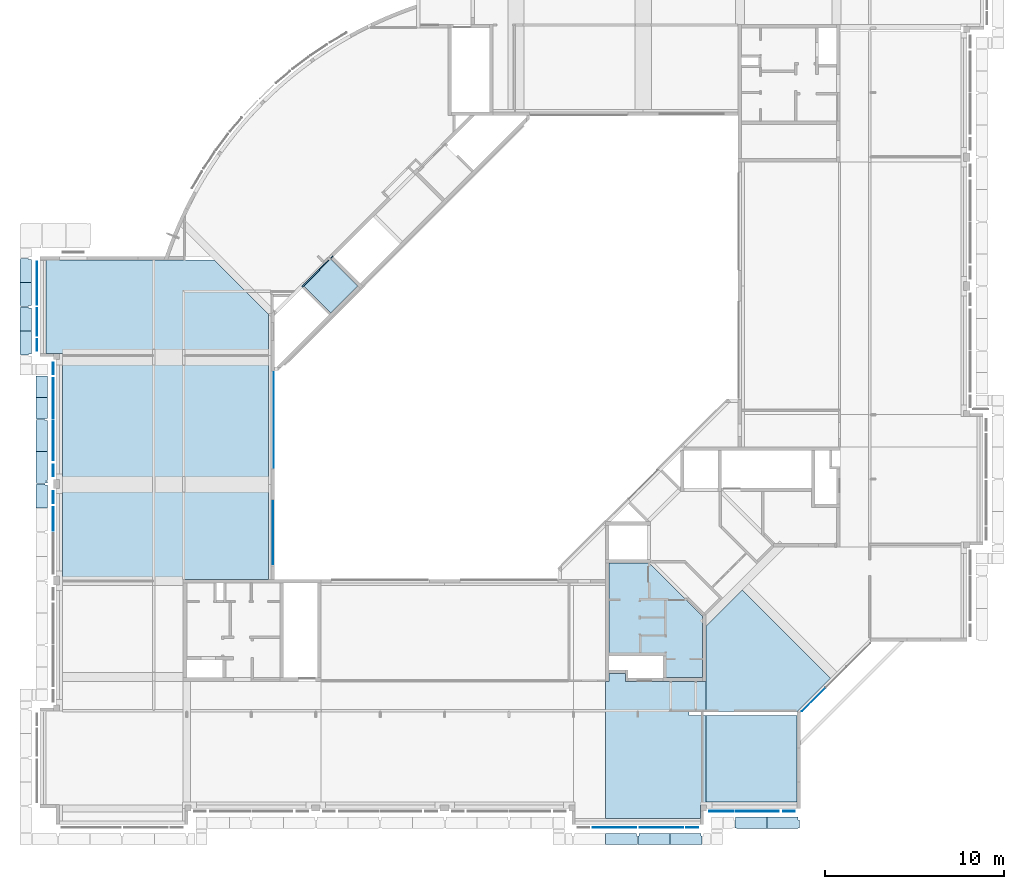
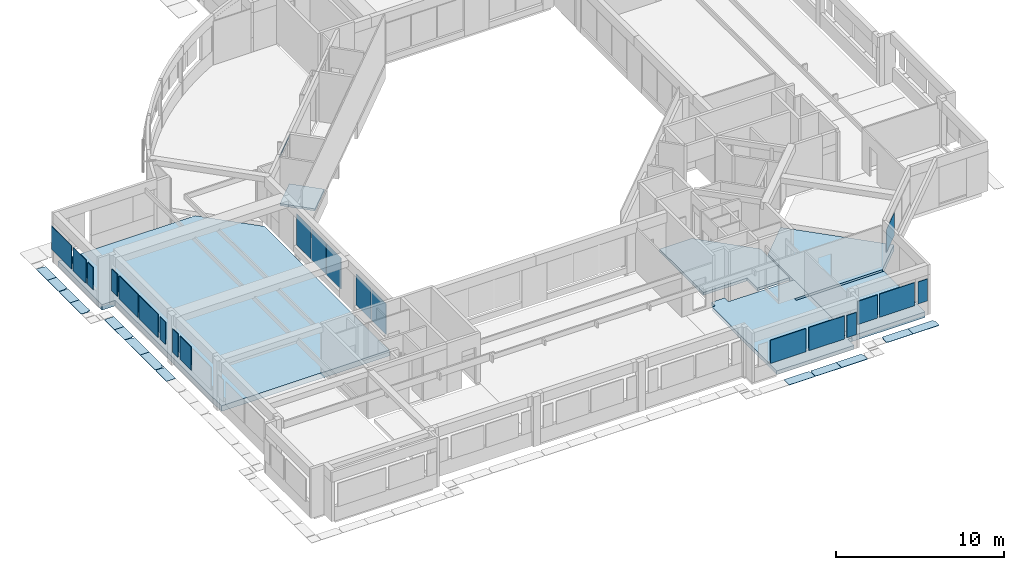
# One storey, part 5 of 26: 22 plates, 19 slabs, 1 element without a shape of its own.
"""IFC4X3_ADD2 building model written with IfcOpenShell, lengths in millimetres."""

from ifc_helpers import new_model, si_unit, direction, frame, frame_2d, origin_with_axes, origin_2d_with_axis, place, context, subcontext, project, spatial, polyline, rectangle, outline, extrude, source, transform, mapped, material, type_object, type_shapes, element, aggregate, save


model = new_model("IFC4X3_ADD2")

# Units and contexts
model_context = context("Model", 3, precision=1e-05, world=origin_with_axes(), true_north=direction((0.0, 1.0)))
body_context = subcontext(model_context, "Body", "Model", "MODEL_VIEW")
ifc_project = project(units=[si_unit("LENGTHUNIT", "METRE", prefix="MILLI"), si_unit("AREAUNIT", "SQUARE_METRE"), si_unit("VOLUMEUNIT", "CUBIC_METRE"), si_unit("PLANEANGLEUNIT", "RADIAN"), si_unit("TIMEUNIT", "SECOND"), si_unit("MASSUNIT", "GRAM")], contexts=[model_context])

# Site, building, storey
site_placement = place(None, origin_with_axes())
site = spatial("IfcSite", under=ifc_project, at=site_placement, Name="Site", CompositionType="ELEMENT")
building_placement = place(site_placement, origin_with_axes())
building = spatial("IfcBuilding", under=site, at=building_placement, Name="IFC Building Story")
storey_placement = place(building_placement, frame((0.0, 0.0, 7200.0), z_axis=(0.0, 0.0, 1.0), x_axis=(1.0, 0.0, 0.0)))
storey = spatial("IfcBuildingStorey", under=building, at=storey_placement, Name="020", Elevation=7200.0)

# Slabs
ifc_material_1 = material(Name="BB_Beton_Bestaand")
slab_type_1 = type_object("IfcSlabType", Name="BB_Beton_Bestaand 200", PredefinedType="FLOOR", material=ifc_material_1)
slab_1_placement = place(storey_placement, frame((-19899.99999999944, 13614.99999999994, -280.0), z_axis=(0.0, 0.0, 1.0), x_axis=(0.0, -1.0, 0.0)))
element("IfcSlab", 1, at=slab_1_placement, inside=storey, type_object=slab_type_1, Name="Floor:BB_XX_Vloer uit beton, 200 mm", ObjectType="Floor:BB_XX_Vloer uit beton, 200 mm", PredefinedType="FLOOR", context=body_context, shape_type="SweptSolid", body=[
    extrude(outline(polyline([(2668.879612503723, 347.5489589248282), (1458.879612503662, 347.5489589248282), (1458.879612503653, -2662.451041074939), (-3746.120387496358, -2662.451041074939), (-3746.120387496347, -445.293753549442), (-763.2776750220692, 2537.54895892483), (2668.879612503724, 2537.54895892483), (2668.879612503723, 347.5489589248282)])), frame((3746.120387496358, 2662.451041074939, 0.0), z_axis=(0.0, 0.0, 1.0), x_axis=(1.0, 0.0, 0.0)), (0.0, 0.0, 1.0), 200.0),
])
slab_type_2 = type_object("IfcSlabType", Name="Floor_BB_XX_Vloer welfsels_ 400 mm", PredefinedType="NOTDEFINED")
shared_shape_1 = source(origin_with_axes(), body_context, "Body", "SweptSolid", [
    extrude(rectangle(XDim=5084.999999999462, YDim=4855.00000000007, at=origin_2d_with_axis()), frame((-11957.5, 2672.50000000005, -600.0), z_axis=(0.0, 0.0, 1.0), x_axis=(1.0, 0.0, 0.0)), (0.0, 0.0, 1.0), 400.0),
    extrude(outline(polyline([(-3194.63239541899, 2532.370010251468), (-1160.711039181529, 4566.291366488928), (3769.24062085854, -363.6602935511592), (1890.36760458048, -2242.533309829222), (1890.36760458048, -2246.233886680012), (-3194.63239541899, -2246.233886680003), (-3194.63239541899, 2532.370010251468)])), frame((-11305.3676045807, 7546.233886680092, -600.0), z_axis=(0.0, 0.0, 1.0), x_axis=(1.0, 0.0, 0.0)), (0.0, 0.0, 1.0), 400.0),
])
type_shapes(slab_type_2, [shared_shape_1])
slab_2_placement = place(storey_placement, origin_with_axes())
element("IfcSlab", 2, at=slab_2_placement, inside=storey, type_object=slab_type_2, material=ifc_material_1, Name="Floor:BB_XX_Vloer welfsels, 400 mm", ObjectType="Floor:BB_XX_Vloer welfsels, 400 mm", PredefinedType="FLOOR", context=body_context, shape_type="MappedRepresentation", body=[
    mapped(shared_shape_1, transform((0.0, 0.0, 0.0))),
])
slab_type_3 = type_object("IfcSlabType", Name="BB_Beton_Bestaand 400", PredefinedType="FLOOR", material=ifc_material_1)
slab_3_placement = place(storey_placement, frame((-51354.99999999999, 30535.00000000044, -600.0), z_axis=(0.0, 0.0, 1.0), x_axis=(0.0, -1.0, 0.0)))
element("IfcSlab", 3, at=slab_3_placement, inside=storey, type_object=slab_type_3, Name="Floor:BB_XX_Vloer welfsels, 400 mm", ObjectType="Floor:BB_XX_Vloer welfsels, 400 mm", PredefinedType="FLOOR", context=body_context, shape_type="SweptSolid", body=[
    extrude(outline(polyline([(10820.30171112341, -4245.323370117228), (-1804.694222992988, -4245.323370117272), (-1804.694222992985, -5145.323370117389), (-7014.694222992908, -5145.323370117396), (-7014.694222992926, 4251.940220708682), (-4001.82653027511, 7264.67662988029), (10820.30171112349, 7264.67662988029), (10820.30171112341, -4245.323370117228)])), frame((7014.694222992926, 5145.323370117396, 0.0), z_axis=(0.0, 0.0, 1.0), x_axis=(1.0, 0.0, 0.0)), (0.0, 0.0, 1.0), 400.0),
])

# Plates
ifc_material_2 = material(Name="BB_Glas")
shared_shape_2 = source(origin_with_axes(), body_context, "Body", "SweptSolid", [
    extrude(rectangle(XDim=1602.000000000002, YDim=652.000000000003, at=frame_2d((0.0, 0.0), x_axis=(0.0, 1.0))), frame((0.0, 0.0, -44.0), z_axis=(0.0, 0.0, 1.0), x_axis=(1.0, 0.0, 0.0)), (0.0, 0.0, 1.0), 44.0),
])
for number, where, z_axis, x_axis in (
    (4, (-15264.0, -1187.50000000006, 1765.0), (0.0, -1.0, 0.0), (1.0, 0.0, 0.0)),
    (5, (-50987.4999999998, 24486.0, 1765.0), (-1.0, 0.0, 0.0), (0.0, -1.0, 0.0)),
    (6, (-50987.4999999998, 18774.0, 1765.0), (-1.0, 0.0, 0.0), (0.0, -1.0, 0.0)),
):
    element("IfcPlate", number, at=place(storey_placement, frame(where, z_axis=z_axis, x_axis=x_axis)), inside=storey, material=ifc_material_2, Name="BB_07.06_Buitenbeglazing, rechthoekig_GMO:07.06.72#01_Drievoudige beglazing, 44 mm, A/A*/A", ObjectType="BB_07.06_Buitenbeglazing, rechthoekig_GMO:07.06.72#01_Drievoudige beglazing, 44 mm, A/A*/A", PredefinedType="USERDEFINED", context=body_context, shape_type="MappedRepresentation", body=[
        mapped(shared_shape_2, transform((0.0, 0.0, 0.0))),
    ])
shared_shape_3 = source(origin_with_axes(), body_context, "Body", "SweptSolid", [
    extrude(rectangle(XDim=2222.0, YDim=1680.000000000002, at=origin_2d_with_axis()), frame((0.0, 0.0, -44.0), z_axis=(0.0, 0.0, 1.0), x_axis=(1.0, 0.0, 0.0)), (0.0, 0.0, 1.0), 44.0),
])
for number, where, z_axis, x_axis in (
    (7, (-50987.4999999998, 22811.0, 1765.0), (-1.0, 0.0, 0.0), (0.0, -1.0, 0.0)),
    (8, (-50987.4999999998, 20449.0, 1765.0), (-1.0, 0.0, 0.0), (0.0, -1.0, 0.0)),
):
    element("IfcPlate", number, at=place(storey_placement, frame(where, z_axis=z_axis, x_axis=x_axis)), inside=storey, material=ifc_material_2, Name="BB_07.06_Buitenbeglazing, rechthoekig_GMO:07.06.72#01_Drievoudige beglazing, 44 mm, A/A*/A", ObjectType="BB_07.06_Buitenbeglazing, rechthoekig_GMO:07.06.72#01_Drievoudige beglazing, 44 mm, A/A*/A", PredefinedType="USERDEFINED", context=body_context, shape_type="MappedRepresentation", body=[
        mapped(shared_shape_3, transform((0.0, 0.0, 0.0))),
    ])
shared_shape_4 = source(origin_with_axes(), body_context, "Body", "SweptSolid", [
    extrude(rectangle(XDim=2432.0, YDim=1680.000000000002, at=origin_2d_with_axis()), frame((0.0, 0.0, -44.0), z_axis=(0.0, 0.0, 1.0), x_axis=(1.0, 0.0, 0.0)), (0.0, 0.0, 1.0), 44.0),
])
for number, where, z_axis, x_axis in (
    (9, (-19616.0, -1187.50000000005, 1765.0), (0.0, -1.0, 0.0), (1.0, 0.0, 0.0)),
    (10, (-16984.0, -1187.50000000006, 1765.0), (0.0, -1.0, 0.0), (1.0, 0.0, 0.0)),
):
    element("IfcPlate", number, at=place(storey_placement, frame(where, z_axis=z_axis, x_axis=x_axis)), inside=storey, material=ifc_material_2, Name="BB_07.06_Buitenbeglazing, rechthoekig_GMO:07.06.72#01_Drievoudige beglazing, 44 mm, A/A*/A", ObjectType="BB_07.06_Buitenbeglazing, rechthoekig_GMO:07.06.72#01_Drievoudige beglazing, 44 mm, A/A*/A", PredefinedType="USERDEFINED", context=body_context, shape_type="MappedRepresentation", body=[
        mapped(shared_shape_4, transform((0.0, 0.0, 0.0))),
    ])
shared_shape_5 = source(origin_with_axes(), body_context, "Body", "SweptSolid", [
    extrude(rectangle(XDim=1602.000000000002, YDim=652.0000000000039, at=frame_2d((0.0, 0.0), x_axis=(0.0, 1.0))), frame((0.0, 0.0, -44.0), z_axis=(0.0, 0.0, 1.0), x_axis=(1.0, 0.0, 0.0)), (0.0, 0.0, 1.0), 44.0),
])
for number, where, z_axis, x_axis in (
    (11, (-9864.0, -287.499999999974, 1765.0), (0.0, -1.0, 0.0), (-1.0, 0.0, 0.0)),
    (12, (-51887.5000000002, 25794.0, 1765.0), (-1.0, 0.0, 0.0), (0.0, 1.0, 0.0)),
):
    element("IfcPlate", number, at=place(storey_placement, frame(where, z_axis=z_axis, x_axis=x_axis)), inside=storey, material=ifc_material_2, Name="BB_07.06_Buitenbeglazing, rechthoekig_GMO:07.06.72#01_Drievoudige beglazing, 44 mm, A/A*/A", ObjectType="BB_07.06_Buitenbeglazing, rechthoekig_GMO:07.06.72#01_Drievoudige beglazing, 44 mm, A/A*/A", PredefinedType="USERDEFINED", context=body_context, shape_type="MappedRepresentation", body=[
        mapped(shared_shape_5, transform((0.0, 0.0, 0.0))),
    ])
shared_shape_6 = source(origin_with_axes(), body_context, "Body", "SweptSolid", [
    extrude(rectangle(XDim=1680.000000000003, YDim=1532.000000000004, at=frame_2d((0.0, 0.0), x_axis=(0.0, 1.0))), frame((0.0, 0.0, -44.0), z_axis=(0.0, 0.0, 1.0), x_axis=(1.0, 0.0, 0.0)), (0.0, 0.0, 1.0), 44.0),
])
plate_1_placement = place(storey_placement, frame((-51887.5000000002, 27064.0, 1765.0), z_axis=(-1.0, 0.0, 0.0), x_axis=(0.0, 1.0, 0.0)))
element("IfcPlate", 13, at=plate_1_placement, inside=storey, material=ifc_material_2, Name="BB_07.06_Buitenbeglazing, rechthoekig_GMO:07.06.72#01_Drievoudige beglazing, 44 mm, A/A*/A", ObjectType="BB_07.06_Buitenbeglazing, rechthoekig_GMO:07.06.72#01_Drievoudige beglazing, 44 mm, A/A*/A", PredefinedType="USERDEFINED", context=body_context, shape_type="MappedRepresentation", body=[
    mapped(shared_shape_6, transform((0.0, 0.0, 0.0))),
])
shared_shape_7 = source(origin_with_axes(), body_context, "Body", "SweptSolid", [
    extrude(rectangle(XDim=2400.0, YDim=1680.000000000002, at=origin_2d_with_axis()), frame((0.0, 0.0, -44.0), z_axis=(0.0, 0.0, 1.0), x_axis=(1.0, 0.0, 0.0)), (0.0, 0.0, 1.0), 44.0),
])
plate_2_placement = place(storey_placement, frame((-51887.5000000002, 29230.0, 1765.0), z_axis=(-1.0, 0.0, 0.0), x_axis=(0.0, 1.0, 0.0)))
element("IfcPlate", 14, at=plate_2_placement, inside=storey, material=ifc_material_2, Name="BB_07.06_Buitenbeglazing, rechthoekig_GMO:07.06.72#01_Drievoudige beglazing, 44 mm, A/A*/A", ObjectType="BB_07.06_Buitenbeglazing, rechthoekig_GMO:07.06.72#01_Drievoudige beglazing, 44 mm, A/A*/A", PredefinedType="USERDEFINED", context=body_context, shape_type="MappedRepresentation", body=[
    mapped(shared_shape_7, transform((0.0, 0.0, 0.0))),
])
shared_shape_8 = source(origin_with_axes(), body_context, "Body", "SweptSolid", [
    extrude(rectangle(XDim=1680.000000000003, YDim=1322.000000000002, at=frame_2d((0.0, 0.0), x_axis=(0.0, 1.0))), frame((0.0, 0.0, -44.0), z_axis=(0.0, 0.0, 1.0), x_axis=(1.0, 0.0, 0.0)), (0.0, 0.0, 1.0), 44.0),
])
plate_3_placement = place(storey_placement, frame((-50987.4999999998, 16061.0, 1765.0), z_axis=(-1.0, 0.0, 0.0), x_axis=(0.0, 1.0, 0.0)))
element("IfcPlate", 15, at=plate_3_placement, inside=storey, material=ifc_material_2, Name="BB_07.06_Buitenbeglazing, rechthoekig_GMO:07.06.72#01_Drievoudige beglazing, 44 mm, A/A*/A", ObjectType="BB_07.06_Buitenbeglazing, rechthoekig_GMO:07.06.72#01_Drievoudige beglazing, 44 mm, A/A*/A", PredefinedType="USERDEFINED", context=body_context, shape_type="MappedRepresentation", body=[
    mapped(shared_shape_8, transform((0.0, 0.0, 0.0))),
])
shared_shape_9 = source(origin_with_axes(), body_context, "Body", "SweptSolid", [
    extrude(rectangle(XDim=1680.000000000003, YDim=652.000000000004, at=frame_2d((0.0, 0.0), x_axis=(0.0, 1.0))), frame((0.0, 0.0, -44.0), z_axis=(0.0, 0.0, 1.0), x_axis=(1.0, 0.0, 0.0)), (0.0, 0.0, 1.0), 44.0),
])
plate_4_placement = place(storey_placement, frame((-50987.4999999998, 17286.0, 1765.0), z_axis=(-1.0, 0.0, 0.0), x_axis=(0.0, 1.0, 0.0)))
element("IfcPlate", 16, at=plate_4_placement, inside=storey, material=ifc_material_2, Name="BB_07.06_Buitenbeglazing, rechthoekig_GMO:07.06.72#01_Drievoudige beglazing, 44 mm, A/A*/A", ObjectType="BB_07.06_Buitenbeglazing, rechthoekig_GMO:07.06.72#01_Drievoudige beglazing, 44 mm, A/A*/A", PredefinedType="USERDEFINED", context=body_context, shape_type="MappedRepresentation", body=[
    mapped(shared_shape_9, transform((0.0, 0.0, 0.0))),
])
shared_shape_10 = source(origin_with_axes(), body_context, "Body", "SweptSolid", [
    extrude(rectangle(XDim=2256.0, YDim=1736.000000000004, at=frame_2d((0.0, 0.0), x_axis=(0.0, 1.0))), frame((0.0, 0.0, -17.0), z_axis=(0.0, 0.0, 1.0), x_axis=(1.0, 0.0, 0.0)), (0.0, 0.0, 1.0), 17.0),
])
for number, where, z_axis, x_axis in (
    (17, (-38633.5000000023, 21600.0, 1475.0), (1.0, 0.0, 0.0), (0.0, 1.0, 0.0)),
    (18, (-38633.5000000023, 19800.0, 1475.0), (1.0, 0.0, 0.0), (0.0, 1.0, 0.0)),
    (19, (-38678.4375000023, 16200.0, 1475.0), (1.0, 0.0, 0.0), (0.0, 1.0, 0.0)),
    (20, (-38678.4375000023, 14400.0, 1475.0), (1.0, 0.0, 0.0), (0.0, 1.0, 0.0)),
    (21, (-38633.5000000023, 23400.0, 1475.0), (1.0, 0.0, 0.0), (0.0, 1.0, 0.0)),
):
    element("IfcPlate", number, at=place(storey_placement, frame(where, z_axis=z_axis, x_axis=x_axis)), inside=storey, material=ifc_material_2, Name="BB_10.10_Binnenbeglazing, rechthoekig_GMO:10.10.41#02_Enkelvoudige beglazing, 2B2, EI30, 40dB", ObjectType="BB_10.10_Binnenbeglazing, rechthoekig_GMO:10.10.41#02_Enkelvoudige beglazing, 2B2, EI30, 40dB", PredefinedType="USERDEFINED", context=body_context, shape_type="MappedRepresentation", body=[
        mapped(shared_shape_10, transform((0.0, 0.0, 0.0))),
    ])
shared_shape_11 = source(origin_with_axes(), body_context, "Body", "SweptSolid", [
    extrude(rectangle(XDim=2402.0, YDim=1680.000000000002, at=origin_2d_with_axis()), frame((0.0, 0.0, -44.0), z_axis=(0.0, 0.0, 1.0), x_axis=(1.0, 0.0, 0.0)), (0.0, 0.0, 1.0), 44.0),
])
plate_5_placement = place(storey_placement, frame((-11629.0, -287.499999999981, 1765.0), z_axis=(0.0, -1.0, 0.0), x_axis=(-1.0, 0.0, 0.0)))
element("IfcPlate", 22, at=plate_5_placement, inside=storey, material=ifc_material_2, Name="BB_07.06_Buitenbeglazing, rechthoekig_GMO:07.06.72#01_Drievoudige beglazing, 44 mm, A/A*/A", ObjectType="BB_07.06_Buitenbeglazing, rechthoekig_GMO:07.06.72#01_Drievoudige beglazing, 44 mm, A/A*/A", PredefinedType="USERDEFINED", context=body_context, shape_type="MappedRepresentation", body=[
    mapped(shared_shape_11, transform((0.0, 0.0, 0.0))),
])
shared_shape_12 = source(origin_with_axes(), body_context, "Body", "SweptSolid", [
    extrude(rectangle(XDim=1680.000000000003, YDim=1350.000000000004, at=frame_2d((0.0, 0.0), x_axis=(0.0, 1.0))), frame((0.0, 0.0, -44.0), z_axis=(0.0, 0.0, 1.0), x_axis=(1.0, 0.0, 0.0)), (0.0, 0.0, 1.0), 44.0),
])
plate_6_placement = place(storey_placement, frame((-13645.0, -287.499999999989, 1765.0), z_axis=(0.0, -1.0, 0.0), x_axis=(-1.0, 0.0, 0.0)))
element("IfcPlate", 23, at=plate_6_placement, inside=storey, material=ifc_material_2, Name="BB_07.06_Buitenbeglazing, rechthoekig_GMO:07.06.72#01_Drievoudige beglazing, 44 mm, A/A*/A", ObjectType="BB_07.06_Buitenbeglazing, rechthoekig_GMO:07.06.72#01_Drievoudige beglazing, 44 mm, A/A*/A", PredefinedType="USERDEFINED", context=body_context, shape_type="MappedRepresentation", body=[
    mapped(shared_shape_12, transform((0.0, 0.0, 0.0))),
])
shared_shape_13 = source(origin_with_axes(), body_context, "Body", "SweptSolid", [
    extrude(rectangle(XDim=1836.000000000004, YDim=1669.000000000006, at=origin_2d_with_axis()), frame((0.0, 0.0, -17.0), z_axis=(0.0, 0.0, 1.0), x_axis=(1.0, 0.0, 0.0)), (0.0, 0.0, 1.0), 17.0),
])
plate_7_placement = place(storey_placement, frame((-8477.28610948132, 5968.47124983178, 1762.50000000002), z_axis=(0.7071067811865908, -0.7071067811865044, 0.0), x_axis=(0.7071067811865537, 0.7071067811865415, 0.0)))
element("IfcPlate", 24, at=plate_7_placement, inside=storey, material=ifc_material_2, Name="BB_10.10_Binnenbeglazing, rechthoekig_GMO:10.10.42#01_Enkelvoudige beglazing, 2B2, EI60", ObjectType="BB_10.10_Binnenbeglazing, rechthoekig_GMO:10.10.42#01_Enkelvoudige beglazing, 2B2, EI60", PredefinedType="USERDEFINED", context=body_context, shape_type="MappedRepresentation", body=[
    mapped(shared_shape_13, transform((0.0, 0.0, 0.0))),
])

# Slabs
slab_type_4 = type_object("IfcSlabType", Name="BB_Beton_Bestaand 260", PredefinedType="FLOOR", material=ifc_material_1)
slab_4_placement = place(storey_placement, frame((-20099.99999999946, 7449.999999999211, -460.0), z_axis=(0.0, 0.0, 1.0), x_axis=(0.0, -1.0, 0.0)))
element("IfcSlab", 25, at=slab_4_placement, inside=storey, type_object=slab_type_4, Name="Floor:BB_XX_Vloer welfsels, 260 mm", ObjectType="Floor:BB_XX_Vloer welfsels, 260 mm", PredefinedType="FLOOR", context=body_context, shape_type="SweptSolid", body=[
    extrude(outline(polyline([(4374.999999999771, 2097.880582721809), (5124.999999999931, 2097.880582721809), (5124.999999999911, -3207.119417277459), (-2530.000000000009, -3207.119417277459), (-2530.000000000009, -3007.119417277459), (-2979.99999999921, -3007.119417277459), (-2979.999999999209, -2107.283496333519), (-2529.999999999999, -2107.283496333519), (-2529.999999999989, 2392.880582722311), (-830.0000000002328, 2392.8805827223), (-830.0000000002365, 1437.88058272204), (-630.0000000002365, 1437.88058272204), (-630.0000000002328, 2392.8805827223), (4374.999999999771, 2392.88058272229), (4374.999999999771, 2097.880582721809)])), frame((2979.99999999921, 3207.119417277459, 0.0), z_axis=(0.0, 0.0, 1.0), x_axis=(1.0, 0.0, 0.0)), (0.0, 0.0, 1.0), 260.0),
])
slab_type_5 = type_object("IfcSlabType", Name="BB_Beton_Bestaand 150", PredefinedType="FLOOR", material=ifc_material_1)
slab_5_placement = place(storey_placement, frame((-36975.84103193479, 29105.74255732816, -350.0), z_axis=(0.0, 0.0, 1.0), x_axis=(0.7071067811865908, -0.7071067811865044, 0.0)))
element("IfcSlab", 26, at=slab_5_placement, inside=storey, type_object=slab_type_5, Name="Floor:BB_XX_Vloer uit beton, 150 mm", ObjectType="Floor:BB_XX_Vloer uit beton, 150 mm", PredefinedType="FLOOR", context=body_context, shape_type="SweptSolid", body=[
    extrude(rectangle(XDim=2158.526617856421, YDim=2130.000000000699, at=frame_2d((0.0, 0.0), x_axis=(-1.0, 0.0))), frame((1079.263308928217, 1065.000000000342, 0.0), z_axis=(0.0, 0.0, 1.0), x_axis=(1.0, 0.0, 0.0)), (0.0, 0.0, 1.0), 150.000000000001),
])

# Assembly, plate
assembly_placement = place(storey_placement, frame((0.0, 0.0, -7200.0), z_axis=(0.0, 0.0, 1.0), x_axis=(1.0, 0.0, 0.0)))
assembly = element("IfcElementAssembly", 27, at=assembly_placement, inside=storey, Name="Structural Connections Assembly:IPE360 + plaat", ObjectType="Structural Connections Assembly:IPE360 + plaat", AssemblyPlace="NOTDEFINED", PredefinedType="USERDEFINED")
ifc_material_3 = material(Name="BB_Schrijnwerk_Aluminium")
shared_shape_14 = source(origin_with_axes(), body_context, "Body", "SweptSolid", [
    extrude(rectangle(XDim=2419.99999999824, YDim=65.00000000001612, at=frame_2d((0.0, 0.0), x_axis=(0.7071067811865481, 0.7071067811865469))), frame((878.580175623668, 878.5801756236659, 0.0), z_axis=(0.0, 0.0, 1.0), x_axis=(1.0, 0.0, 0.0)), (0.0, 0.0, 1.0), 9.99999999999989),
])
plate_8_placement = place(assembly_placement, frame((-37071.3004473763, 29027.9608113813, 10439.50000000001), z_axis=(0.0, 0.0, 1.0), x_axis=(1.0, 0.0, 0.0)))
plate_8 = element("IfcPlate", 28, at=plate_8_placement, material=ifc_material_3, Name="plate5:plate", ObjectType="plate5:plate", PredefinedType="USERDEFINED", context=body_context, shape_type="MappedRepresentation", body=[
    mapped(shared_shape_14, transform((0.0, 0.0, 0.0))),
])
aggregate(assembly, [plate_8])

# Slabs
ifc_material_4 = material(Name="Steel, Galvanized - looprooster")
slab_type_6 = type_object("IfcSlabType", Name="Steel, Galvanized - looprooster 30", PredefinedType="FLOOR", material=ifc_material_4)
slab_6_placement = place(storey_placement, frame((-52819.998957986, 29279.99796376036, -350.0), z_axis=(0.0, 0.0, 1.0), x_axis=(0.0, -1.0, 0.0)))
element("IfcSlab", 29, at=slab_6_placement, inside=storey, type_object=slab_type_6, Name="Floor:GVH - Looprooster 30 mm", ObjectType="Floor:GVH - Looprooster 30 mm", PredefinedType="FLOOR", context=body_context, shape_type="SweptSolid", body=[
    extrude(outline(polyline([(368.499500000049, -267.5011650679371), (281.4994999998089, -267.5011650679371), (281.4994999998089, -282.4999850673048), (-966.4984999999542, -282.4999850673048), (-966.4984999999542, 347.5005750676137), (316.4995000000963, 347.5005750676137), (316.4995000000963, 202.5005750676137), (368.499500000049, 202.5005750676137), (368.499500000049, -267.5011650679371)])), frame((966.4984999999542, 282.4999850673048, 0.0), z_axis=(0.0, 0.0, 1.0), x_axis=(1.0, 0.0, 0.0)), (0.0, 0.0, 1.0), 29.99999999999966),
])
slab_7_placement = place(storey_placement, frame((-51919.99839785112, 22852.4979637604, -350.0), z_axis=(0.0, 0.0, 1.0), x_axis=(0.0, -1.0, 0.0)))
element("IfcSlab", 30, at=slab_7_placement, inside=storey, type_object=slab_type_6, Name="Floor:GVH - Looprooster 30 mm", ObjectType="Floor:GVH - Looprooster 30 mm", PredefinedType="FLOOR", context=body_context, shape_type="SweptSolid", body=[
    extrude(outline(polyline([(327.8744499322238, -267.5017166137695), (275.8746502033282, -267.5017166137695), (275.8746502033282, -282.4994277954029), (-879.6235500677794, -282.4994277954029), (-879.6235500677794, 347.5005722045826), (275.8744499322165, 347.5005722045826), (275.8744499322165, 202.5005722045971), (327.8744499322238, 202.5005722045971), (327.8744499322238, -267.5017166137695)])), frame((879.6235500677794, 282.4994277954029, 0.0), z_axis=(0.0, 0.0, 1.0), x_axis=(1.0, 0.0, 0.0)), (0.0, 0.0, 1.0), 29.99999999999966),
])
slab_8_placement = place(storey_placement, frame((-51919.99839785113, 19829.49796376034, -350.0), z_axis=(0.0, 0.0, 1.0), x_axis=(0.0, -1.0, 0.0)))
element("IfcSlab", 31, at=slab_8_placement, inside=storey, type_object=slab_type_6, Name="Floor:GVH - Looprooster 30 mm", ObjectType="Floor:GVH - Looprooster 30 mm", PredefinedType="FLOOR", context=body_context, shape_type="SweptSolid", body=[
    extrude(outline(polyline([(360.2496332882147, -368.3342997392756), (308.2498335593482, -368.3342997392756), (308.2498335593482, -383.3320109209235), (-1424.248366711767, -383.3320109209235), (-1424.248366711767, 246.667989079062), (175.2496332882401, 246.667989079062), (175.2496332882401, 156.6647847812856), (255.2496332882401, 156.6647847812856), (255.2496332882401, 246.667989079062), (325.2496332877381, 246.667989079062), (325.2496332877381, 101.6655477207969), (360.2496332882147, 101.6655477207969), (360.2496332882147, -368.3342997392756)])), frame((1424.248366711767, 383.3320109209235, 0.0), z_axis=(0.0, 0.0, 1.0), x_axis=(1.0, 0.0, 0.0)), (0.0, 0.0, 1.0), 29.9999999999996),
])
slab_9_placement = place(storey_placement, frame((-52819.9983978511, 30614.9999637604, -350.0), z_axis=(0.0, 0.0, 1.0), x_axis=(0.0, -1.0, 0.0)))
element("IfcSlab", 32, at=slab_9_placement, inside=storey, type_object=slab_type_6, Name="Floor:GVH - Looprooster 30 mm", ObjectType="Floor:GVH - Looprooster 30 mm", PredefinedType="FLOOR", context=body_context, shape_type="SweptSolid", body=[
    extrude(outline(polyline([(-307.6244513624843, 347.5005722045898), (974.8735505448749, 347.5005722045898), (974.8735505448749, -282.4994277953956), (-307.6246478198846, -282.4994277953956), (-307.6246478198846, -267.501716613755), (-359.6244513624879, -267.501716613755), (-359.6244513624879, 202.5005722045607), (-307.6244513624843, 202.5005722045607), (-307.6244513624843, 347.5005722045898)])), frame((359.6244513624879, 282.4994277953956, 0.0), z_axis=(0.0, 0.0, 1.0), x_axis=(1.0, 0.0, 0.0)), (0.0, 0.0, 1.0), 29.99999999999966),
])
slab_10_placement = place(storey_placement, frame((-52819.99895798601, 27914.99996376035, -350.0), z_axis=(0.0, 0.0, 1.0), x_axis=(0.0, -1.0, 0.0)))
element("IfcSlab", 33, at=slab_10_placement, inside=storey, type_object=slab_type_6, Name="Floor:GVH - Looprooster 30 mm", ObjectType="Floor:GVH - Looprooster 30 mm", PredefinedType="FLOOR", context=body_context, shape_type="SweptSolid", body=[
    extrude(outline(polyline([(-316.4995000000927, 347.5005750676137), (966.498499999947, 347.5005750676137), (966.498499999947, -282.4999850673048), (-281.4994999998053, -282.4999850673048), (-281.4994999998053, -267.5011650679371), (-368.4995000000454, -267.5011650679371), (-368.4995000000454, 202.5005750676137), (-316.4995000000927, 202.5005750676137), (-316.4995000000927, 347.5005750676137)])), frame((368.4995000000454, 282.4999850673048, 0.0), z_axis=(0.0, 0.0, 1.0), x_axis=(1.0, 0.0, 0.0)), (0.0, 0.0, 1.0), 29.99999999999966),
])
slab_11_placement = place(storey_placement, frame((-52819.99839785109, 26579.4979637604, -350.0), z_axis=(0.0, 0.0, 1.0), x_axis=(0.0, -1.0, 0.0)))
element("IfcSlab", 34, at=slab_11_placement, inside=storey, type_object=slab_type_6, Name="Floor:GVH - Looprooster 30 mm", ObjectType="Floor:GVH - Looprooster 30 mm", PredefinedType="FLOOR", context=body_context, shape_type="SweptSolid", body=[
    extrude(outline(polyline([(359.6244499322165, -267.5011650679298), (307.6246502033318, -267.5011650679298), (307.6246502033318, -282.4999850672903), (-974.8735500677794, -282.4999850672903), (-974.8735500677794, 347.5005750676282), (307.6244499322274, 347.5005750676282), (307.6244499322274, 202.500575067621), (359.6244499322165, 202.500575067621), (359.6244499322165, -267.5011650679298)])), frame((974.8735500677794, 282.4999850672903, 0.0), z_axis=(0.0, 0.0, 1.0), x_axis=(1.0, 0.0, 0.0)), (0.0, 0.0, 1.0), 29.99999999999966),
])
slab_12_placement = place(storey_placement, frame((-51919.9983978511, 21614.99996376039, -350.0), z_axis=(0.0, 0.0, 1.0), x_axis=(0.0, -1.0, 0.0)))
element("IfcSlab", 35, at=slab_12_placement, inside=storey, type_object=slab_type_6, Name="Floor:GVH - Looprooster 30 mm", ObjectType="Floor:GVH - Looprooster 30 mm", PredefinedType="FLOOR", context=body_context, shape_type="SweptSolid", body=[
    extrude(outline(polyline([(-420.2504508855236, 347.5005722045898), (1312.751549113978, 347.5005722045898), (1312.751549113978, -282.4994277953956), (-420.2506473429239, -282.4994277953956), (-420.2506473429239, -267.501716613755), (-472.2504508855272, -267.501716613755), (-472.2504508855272, 202.5005722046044), (-420.2504508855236, 202.5005722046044), (-420.2504508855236, 347.5005722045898)])), frame((472.2504508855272, 282.4994277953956, 0.0), z_axis=(0.0, 0.0, 1.0), x_axis=(1.0, 0.0, 0.0)), (0.0, 0.0, 1.0), 29.99999999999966),
])
slab_13_placement = place(storey_placement, frame((-51919.99839785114, 18014.99596376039, -350.0), z_axis=(0.0, 0.0, 1.0), x_axis=(0.0, -1.0, 0.0)))
element("IfcSlab", 36, at=slab_13_placement, inside=storey, type_object=slab_type_6, Name="Floor:GVH - Looprooster 30 mm", ObjectType="Floor:GVH - Looprooster 30 mm", PredefinedType="FLOOR", context=body_context, shape_type="SweptSolid", body=[
    extrude(outline(polyline([(-320.501450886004, 347.5010453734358), (979.5005491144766, 347.5010453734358), (979.5005491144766, -282.4989546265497), (-303.5016473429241, -282.4989546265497), (-303.5016473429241, -267.5006947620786), (-355.4974508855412, -267.5006947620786), (-355.4974508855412, 202.498604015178), (-320.501450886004, 202.498604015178), (-320.501450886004, 347.5010453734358)])), frame((355.4974508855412, 282.4989546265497, 0.0), z_axis=(0.0, 0.0, 1.0), x_axis=(1.0, 0.0, 0.0)), (0.0, 0.0, 1.0), 29.99999999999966),
])
slab_14_placement = place(storey_placement, frame((-51919.9983978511, 24061.50125884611, -350.0), z_axis=(0.0, 0.0, 1.0), x_axis=(0.0, -1.0, 0.0)))
element("IfcSlab", 37, at=slab_14_placement, inside=storey, type_object=slab_type_6, Name="Floor:GVH - Looprooster 30 mm", ObjectType="Floor:GVH - Looprooster 30 mm", PredefinedType="FLOOR", context=body_context, shape_type="SweptSolid", body=[
    extrude(rectangle(XDim=1207.998000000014, YDim=629.9999999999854, at=frame_2d((0.0, 0.0), x_axis=(-1.0, 0.0))), frame((603.9990000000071, 314.9999999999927, 0.0), z_axis=(0.0, 0.0, 1.0), x_axis=(1.0, 0.0, 0.0)), (0.0, 0.0, 1.0), 29.99999999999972),
])
slab_15_placement = place(storey_placement, frame((-18285.99996376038, -2119.998382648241, -350.0), z_axis=(0.0, 0.0, 1.0), x_axis=(1.0, 0.0, 0.0)))
element("IfcSlab", 38, at=slab_15_placement, inside=storey, type_object=slab_type_6, Name="Floor:GVH - Looprooster 30 mm", ObjectType="Floor:GVH - Looprooster 30 mm", PredefinedType="FLOOR", context=body_context, shape_type="SweptSolid", body=[
    extrude(outline(polyline([(-394.249464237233, -282.4992180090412), (-394.249464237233, -267.4995613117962), (-481.2494642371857, -267.4995613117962), (-481.2494642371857, 202.4983406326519), (-429.2494642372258, 202.4983406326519), (-429.2494642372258, 347.5004386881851), (1304.748392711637, 347.5004386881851), (1304.748392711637, -282.4992180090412), (-394.249464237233, -282.4992180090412)])), frame((481.2494642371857, 282.4992180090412, 0.0), z_axis=(0.0, 0.0, 1.0), x_axis=(1.0, 0.0, 0.0)), (0.0, 0.0, 1.0), 29.99999999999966),
])
slab_16_placement = place(storey_placement, frame((-20099.99796376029, -2119.998390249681, -350.0), z_axis=(0.0, 0.0, 1.0), x_axis=(1.0, 0.0, 0.0)))
element("IfcSlab", 39, at=slab_16_placement, inside=storey, type_object=slab_type_6, Name="Floor:GVH - Looprooster 30 mm", ObjectType="Floor:GVH - Looprooster 30 mm", PredefinedType="FLOOR", context=body_context, shape_type="SweptSolid", body=[
    extrude(outline(polyline([(393.9995000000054, -267.499561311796), (393.9995000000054, -282.499218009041), (-1303.998499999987, -282.499218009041), (-1303.998499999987, 347.500438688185), (428.9994999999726, 347.500438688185), (428.9994999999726, 202.498340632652), (480.9995000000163, 202.498340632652), (480.9995000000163, -267.499561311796), (393.9995000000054, -267.499561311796)])), frame((1303.998499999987, 282.499218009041, 0.0), z_axis=(0.0, 0.0, 1.0), x_axis=(1.0, 0.0, 0.0)), (0.0, 0.0, 1.0), 29.99999999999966),
])
slab_17_placement = place(storey_placement, frame((-16499.49796372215, -2119.998382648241, -350.0), z_axis=(0.0, 0.0, 1.0), x_axis=(1.0, 0.0, 0.0)))
element("IfcSlab", 40, at=slab_17_placement, inside=storey, type_object=slab_type_6, Name="Floor:GVH - Looprooster 30 mm", ObjectType="Floor:GVH - Looprooster 30 mm", PredefinedType="FLOOR", context=body_context, shape_type="SweptSolid", body=[
    extrude(outline(polyline([(420.1245000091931, -267.4995613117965), (420.1245000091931, -282.4992180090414), (-1312.373499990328, -282.4992180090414), (-1312.373499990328, 347.5004386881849), (420.1244999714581, 347.5004386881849), (420.1244999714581, 202.4983406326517), (472.1245000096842, 202.4983406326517), (472.1245000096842, -267.4995613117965), (420.1245000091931, -267.4995613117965)])), frame((1312.373499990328, 282.4992180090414, 0.0), z_axis=(0.0, 0.0, 1.0), x_axis=(1.0, 0.0, 0.0)), (0.0, 0.0, 1.0), 29.99999999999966),
])
slab_18_placement = place(storey_placement, frame((-12885.49996376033, -1219.998397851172, -350.0), z_axis=(0.0, 0.0, 1.0), x_axis=(1.0, 0.0, 0.0)))
element("IfcSlab", 41, at=slab_18_placement, inside=storey, type_object=slab_type_6, Name="Floor:GVH - Looprooster 30 mm", ObjectType="Floor:GVH - Looprooster 30 mm", PredefinedType="FLOOR", context=body_context, shape_type="SweptSolid", body=[
    extrude(outline(polyline([(-398.3744551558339, -282.499218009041), (-398.3744551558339, -267.499561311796), (-485.3744551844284, -267.499561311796), (-485.3744551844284, 202.4983406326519), (-433.3744914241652, 202.4983406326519), (-433.3744914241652, 347.5004386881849), (1317.123401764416, 347.5004386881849), (1317.123401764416, -282.499218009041), (-398.3744551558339, -282.499218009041)])), frame((485.3744551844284, 282.499218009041, 0.0), z_axis=(0.0, 0.0, 1.0), x_axis=(1.0, 0.0, 0.0)), (0.0, 0.0, 1.0), 29.99999999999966),
])
slab_19_placement = place(storey_placement, frame((-11081.99810681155, -1219.998397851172, -350.0), z_axis=(0.0, 0.0, 1.0), x_axis=(1.0, 0.0, 0.0)))
element("IfcSlab", 42, at=slab_19_placement, inside=storey, type_object=slab_type_6, Name="Floor:GVH - Looprooster 30 mm", ObjectType="Floor:GVH - Looprooster 30 mm", PredefinedType="FLOOR", context=body_context, shape_type="SweptSolid", body=[
    extrude(outline(polyline([(404.2496073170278, -267.499561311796), (404.2496073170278, -282.499218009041), (-1312.748535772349, -282.499218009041), (-1312.748535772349, 347.5004386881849), (419.2494642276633, 347.5004386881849), (419.2494642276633, 202.4983406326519), (489.2494642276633, 202.4983406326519), (489.2494642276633, -267.499561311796), (404.2496073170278, -267.499561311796)])), frame((1312.748535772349, 282.499218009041, 0.0), z_axis=(0.0, 0.0, 1.0), x_axis=(1.0, 0.0, 0.0)), (0.0, 0.0, 1.0), 29.99999999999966),
])

save(model, "model.ifc")
